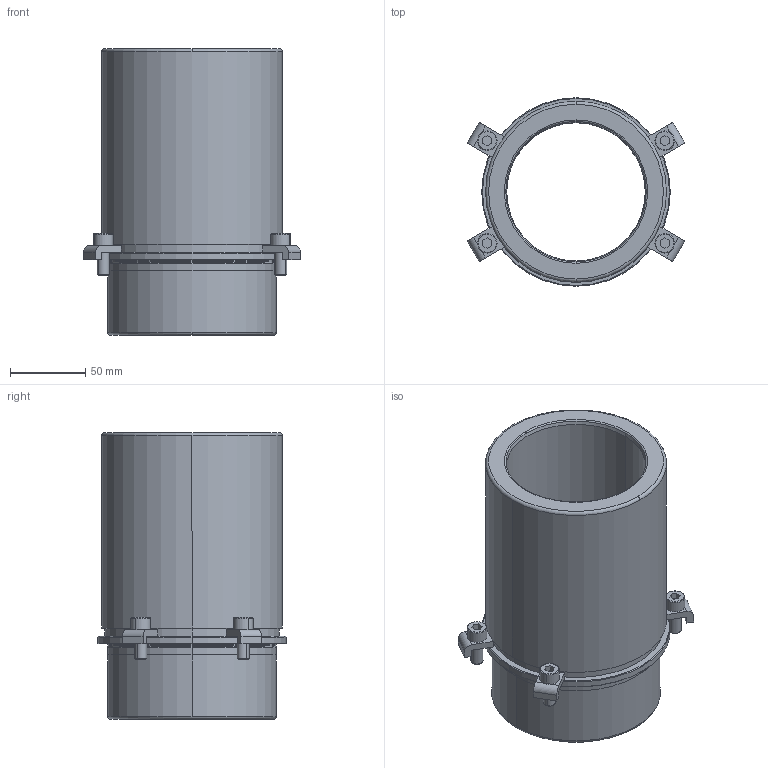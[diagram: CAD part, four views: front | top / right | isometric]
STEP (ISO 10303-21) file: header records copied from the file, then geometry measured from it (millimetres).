
FILE_DESCRIPTION((''),'2;1');
FILE_NAME('B40_080_140.stp','2009-01-05T16:45:29',(''),(''),'Mechanical Desktop 2009','Mechanical Desktop 2009',', , ');
FILE_SCHEMA(('CONFIG_CONTROL_DESIGN'));
Length unit declared in the file: millimetre
Products named in the file (2): Product; blmdl1
Assembly tree (1 placements, depth 2):
  Product
    blmdl1
Bounding box: 144.26 x 125 x 190 mm (x, y, z)
Volume: 826195.9 mm3; surface area: 145541.5 mm2
Topology: 9 solids, 9 shells, 173 faces, 422 edges, 278 vertices
Faces by surface type: plane 77, cylinder 46, cone 22, torus 16, bspline 12
Entity records: 5759 total; most frequent: CARTESIAN_POINT 1403, DIRECTION 958, ORIENTED_EDGE 844, EDGE_CURVE 422, AXIS2_PLACEMENT_3D 373, VERTEX_POINT 278, VECTOR 212, LINE 212
